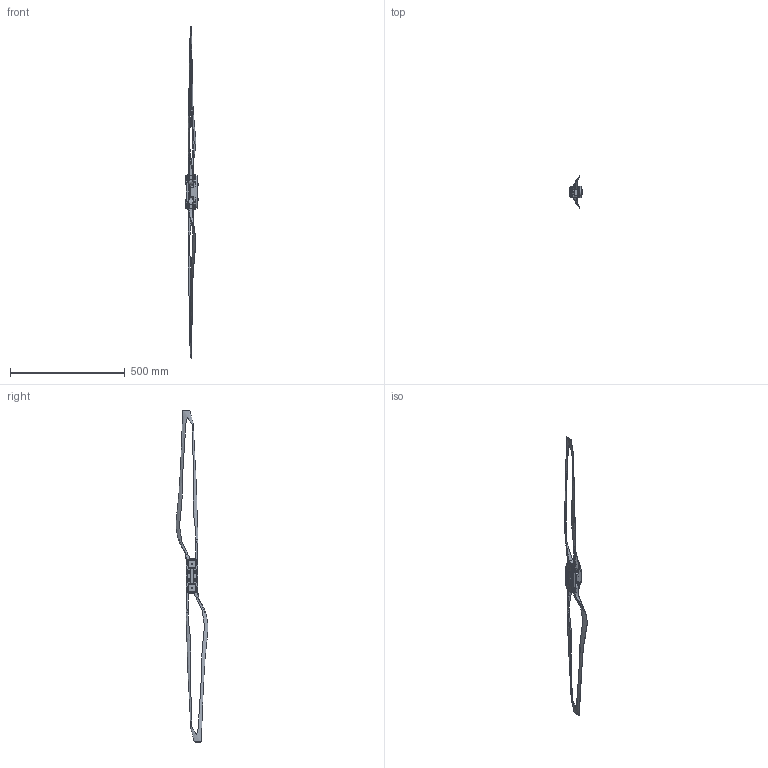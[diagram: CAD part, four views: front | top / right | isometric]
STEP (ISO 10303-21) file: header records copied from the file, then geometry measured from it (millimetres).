
FILE_DESCRIPTION (( 'STEP AP214' ), '1' );
FILE_NAME ('EFZ5720嶺薯蔑.STEP', '2026-06-24T09:10:47', ( '' ), ( '' ), 'SwSTEP 2.0', 'SolidWorks 2022', '' );
FILE_SCHEMA (( 'AUTOMOTIVE_DESIGN' ));
Length unit declared in the file: millimetre
Products named in the file (1): EFZ5720拉力桨
Bounding box: 54.4 x 138.95 x 1447.8 mm (x, y, z)
Volume: 377024.4 mm3; surface area: 144540.2 mm2
Topology: 1 solids, 1 shells, 610 faces, 1520 edges, 920 vertices
Faces by surface type: plane 210, cylinder 197, cone 121, bspline 82
Entity records: 42307 total; most frequent: CARTESIAN_POINT 28158, ORIENTED_EDGE 3016, DIRECTION 2860, EDGE_CURVE 1508, AXIS2_PLACEMENT_3D 1051, VERTEX_POINT 920, VECTOR 758, LINE 758
